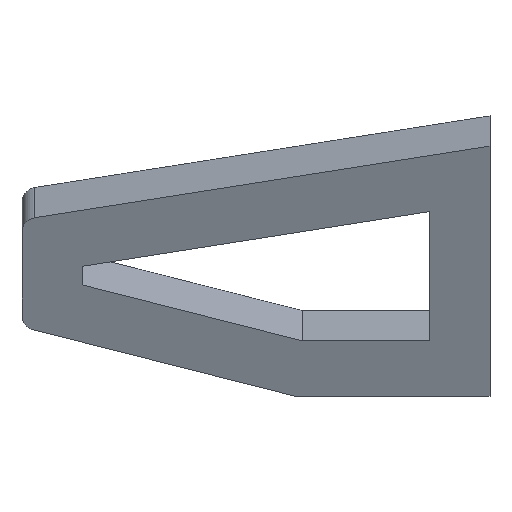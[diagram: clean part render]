
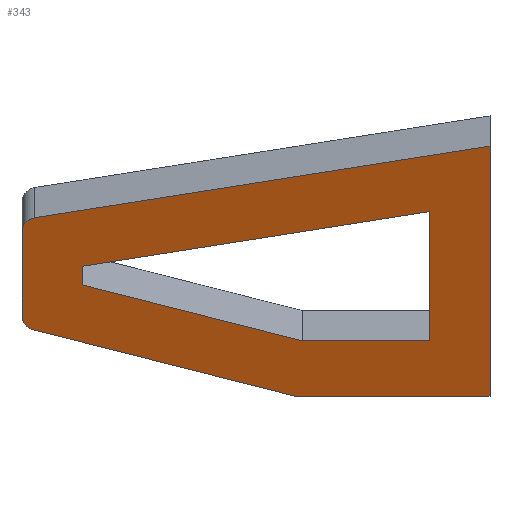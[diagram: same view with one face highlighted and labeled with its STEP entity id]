
A CAD part, left-side view. The second image highlights one B-rep face of the part: STEP entity #343.
In plain terms, the highlighted planar face has unit normal (-0.915, 0, -0.402).
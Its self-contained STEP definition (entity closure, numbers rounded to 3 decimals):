
#19=FACE_BOUND('',#74,.T.);
#33=PLANE('',#373);
#51=FACE_OUTER_BOUND('',#73,.T.);
#73=EDGE_LOOP('',(#301,#302,#303,#304,#305,#306,#307));
#74=EDGE_LOOP('',(#308,#309,#310,#311,#312));
#86=LINE('',#503,#121);
#98=LINE('',#532,#133);
#100=LINE('',#536,#135);
#102=LINE('',#540,#137);
#104=LINE('',#544,#139);
#106=LINE('',#547,#141);
#107=LINE('',#550,#142);
#110=LINE('',#555,#145);
#111=LINE('',#558,#146);
#112=LINE('',#559,#147);
#121=VECTOR('',#413,10.);
#133=VECTOR('',#435,10.);
#135=VECTOR('',#439,10.);
#137=VECTOR('',#443,10.);
#139=VECTOR('',#447,10.);
#141=VECTOR('',#451,10.);
#142=VECTOR('',#454,10.);
#145=VECTOR('',#459,10.);
#146=VECTOR('',#462,10.);
#147=VECTOR('',#463,10.);
#155=CIRCLE('',#360,2.);
#157=CIRCLE('',#365,2.);
#166=VERTEX_POINT('',#493);
#167=VERTEX_POINT('',#495);
#169=VERTEX_POINT('',#501);
#179=VERTEX_POINT('',#525);
#180=VERTEX_POINT('',#529);
#181=VERTEX_POINT('',#531);
#182=VERTEX_POINT('',#535);
#183=VERTEX_POINT('',#539);
#184=VERTEX_POINT('',#543);
#185=VERTEX_POINT('',#549);
#186=VERTEX_POINT('',#553);
#187=VERTEX_POINT('',#557);
#199=EDGE_CURVE('',#166,#167,#155,.T.);
#203=EDGE_CURVE('',#169,#166,#86,.T.);
#214=EDGE_CURVE('',#179,#169,#157,.T.);
#217=EDGE_CURVE('',#181,#180,#98,.T.);
#219=EDGE_CURVE('',#182,#181,#100,.T.);
#221=EDGE_CURVE('',#183,#182,#102,.T.);
#223=EDGE_CURVE('',#184,#183,#104,.T.);
#225=EDGE_CURVE('',#180,#184,#106,.T.);
#226=EDGE_CURVE('',#185,#167,#107,.T.);
#229=EDGE_CURVE('',#179,#186,#110,.T.);
#230=EDGE_CURVE('',#187,#186,#111,.T.);
#231=EDGE_CURVE('',#185,#187,#112,.T.);
#301=ORIENTED_EDGE('',*,*,#199,.F.);
#302=ORIENTED_EDGE('',*,*,#203,.F.);
#303=ORIENTED_EDGE('',*,*,#214,.F.);
#304=ORIENTED_EDGE('',*,*,#229,.T.);
#305=ORIENTED_EDGE('',*,*,#230,.F.);
#306=ORIENTED_EDGE('',*,*,#231,.F.);
#307=ORIENTED_EDGE('',*,*,#226,.T.);
#308=ORIENTED_EDGE('',*,*,#221,.T.);
#309=ORIENTED_EDGE('',*,*,#219,.T.);
#310=ORIENTED_EDGE('',*,*,#217,.T.);
#311=ORIENTED_EDGE('',*,*,#225,.T.);
#312=ORIENTED_EDGE('',*,*,#223,.T.);
#343=ADVANCED_FACE('',(#51,#19),#33,.T.);
#360=AXIS2_PLACEMENT_3D('',#496,#406,#407);
#365=AXIS2_PLACEMENT_3D('',#526,#429,#430);
#373=AXIS2_PLACEMENT_3D('',#556,#460,#461);
#406=DIRECTION('center_axis',(0.915,0.,0.402));
#407=DIRECTION('ref_axis',(-0.259,0.765,0.59));
#413=DIRECTION('',(-0.402,0.,0.915));
#429=DIRECTION('center_axis',(0.915,0.,0.402));
#430=DIRECTION('ref_axis',(0.244,0.796,-0.554));
#435=DIRECTION('',(-0.402,0.,0.915));
#439=DIRECTION('',(-0.107,0.964,0.245));
#443=DIRECTION('',(0.,1.,0.));
#447=DIRECTION('',(0.402,0.,-0.915));
#451=DIRECTION('',(-0.068,-0.986,0.155));
#454=DIRECTION('',(0.068,0.986,-0.155));
#459=DIRECTION('',(0.107,-0.964,-0.245));
#460=DIRECTION('center_axis',(-0.915,0.,-0.402));
#461=DIRECTION('ref_axis',(-0.402,0.,0.915));
#462=DIRECTION('',(0.,1.,0.));
#463=DIRECTION('',(0.402,0.,-0.915));
#493=CARTESIAN_POINT('',(41.444,60.,-49.164));
#495=CARTESIAN_POINT('',(40.651,58.339,-47.36));
#496=CARTESIAN_POINT('Origin',(41.444,58.,-49.164));
#501=CARTESIAN_POINT('',(46.19,60.,-59.961));
#503=CARTESIAN_POINT('',(36.615,60.,-38.177));
#525=CARTESIAN_POINT('',(46.966,58.534,-61.725));
#526=CARTESIAN_POINT('Origin',(46.19,58.,-59.961));
#529=CARTESIAN_POINT('',(43.385,52.277,-53.58));
#531=CARTESIAN_POINT('',(44.439,52.277,-55.976));
#532=CARTESIAN_POINT('',(47.569,52.277,-63.097));
#535=CARTESIAN_POINT('',(47.591,24.013,-63.148));
#536=CARTESIAN_POINT('',(48.946,11.869,-66.23));
#539=CARTESIAN_POINT('',(47.591,7.723,-63.148));
#540=CARTESIAN_POINT('',(47.591,3.862,-63.148));
#543=CARTESIAN_POINT('',(40.303,7.723,-46.567));
#544=CARTESIAN_POINT('',(45.501,7.723,-58.393));
#547=CARTESIAN_POINT('',(41.734,28.407,-49.822));
#549=CARTESIAN_POINT('',(36.615,0.,-38.177));
#550=CARTESIAN_POINT('',(38.893,32.922,-43.359));
#553=CARTESIAN_POINT('',(50.699,25.063,-70.218));
#555=CARTESIAN_POINT('',(51.997,13.426,-73.171));
#556=CARTESIAN_POINT('Origin',(50.699,0.,-70.218));
#557=CARTESIAN_POINT('',(50.699,0.,-70.218));
#558=CARTESIAN_POINT('',(50.699,0.,-70.218));
#559=CARTESIAN_POINT('',(36.615,0.,-38.177));
